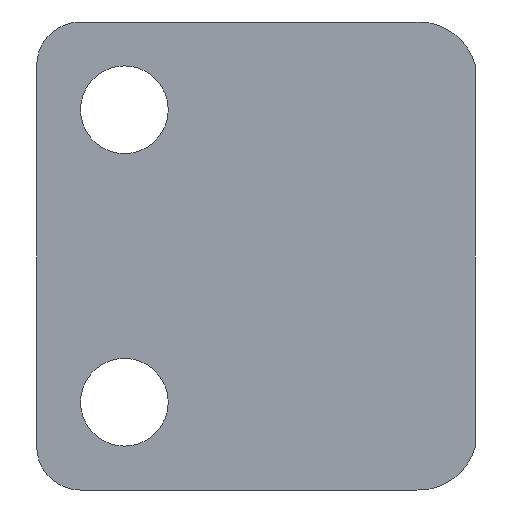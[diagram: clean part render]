
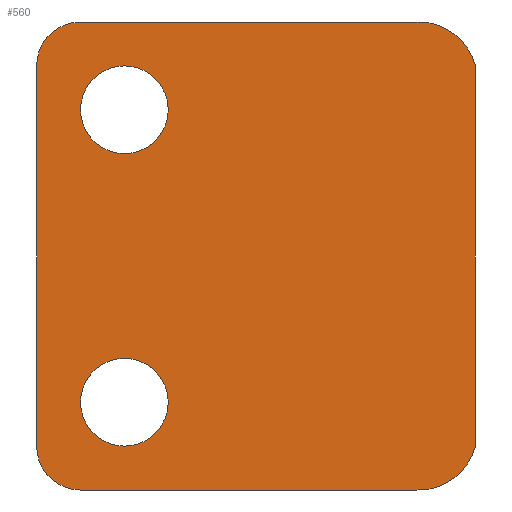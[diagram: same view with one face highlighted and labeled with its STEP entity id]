
A CAD part, front view. The second image highlights one B-rep face of the part: STEP entity #560.
In plain terms, the highlighted planar face has unit normal (0, -1, 0).
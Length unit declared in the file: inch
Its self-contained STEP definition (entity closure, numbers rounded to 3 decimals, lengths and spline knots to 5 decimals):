
#332=CARTESIAN_POINT('',(4.578,5.1798,3.36048));
#333=VERTEX_POINT('',#332);
#334=CARTESIAN_POINT('',(4.7655,5.1798,3.36048));
#335=DIRECTION('',(0.0,-1.0,0.0));
#336=DIRECTION('',(0.0,0.0,-1.0));
#337=AXIS2_PLACEMENT_3D('',#334,#335,#336);
#338=CIRCLE('',#337,0.1875);
#339=EDGE_CURVE('',#333,#333,#338,.T.);
#352=CARTESIAN_POINT('',(4.953,5.1798,4.61048));
#353=VERTEX_POINT('',#352);
#354=CARTESIAN_POINT('',(4.7655,5.1798,4.61048));
#355=DIRECTION('',(0.0,-1.0,0.0));
#356=DIRECTION('',(0.0,0.0,1.0));
#357=AXIS2_PLACEMENT_3D('',#354,#355,#356);
#358=CIRCLE('',#357,0.1875);
#359=EDGE_CURVE('',#353,#353,#358,.T.);
#372=CARTESIAN_POINT('',(6.2655,5.1798,4.79798));
#373=VERTEX_POINT('',#372);
#374=CARTESIAN_POINT('',(6.2655,5.1798,3.17298));
#375=VERTEX_POINT('',#374);
#376=CARTESIAN_POINT('',(6.2655,5.1798,4.79798));
#377=DIRECTION('',(0.0,0.0,-1.0));
#378=VECTOR('',#377,1.625);
#379=LINE('',#376,#378);
#380=EDGE_CURVE('',#373,#375,#379,.T.);
#403=CARTESIAN_POINT('',(6.016,5.1798,2.98548));
#404=VERTEX_POINT('',#403);
#405=CARTESIAN_POINT('',(6.02405,5.1798,3.23452));
#406=DIRECTION('',(0.0,1.0,0.0));
#407=DIRECTION('',(0.601,0.0,-0.799));
#408=AXIS2_PLACEMENT_3D('',#405,#406,#407);
#409=CIRCLE('',#408,0.24917);
#410=EDGE_CURVE('',#375,#404,#409,.T.);
#428=CARTESIAN_POINT('',(4.578,5.1798,2.98548));
#429=VERTEX_POINT('',#428);
#430=CARTESIAN_POINT('',(4.3905,5.1798,3.17298));
#431=VERTEX_POINT('',#430);
#432=CARTESIAN_POINT('',(4.578,5.1798,3.17298));
#433=DIRECTION('',(0.0,1.0,0.0));
#434=DIRECTION('',(-0.707,0.0,-0.707));
#435=AXIS2_PLACEMENT_3D('',#432,#433,#434);
#436=CIRCLE('',#435,0.1875);
#437=EDGE_CURVE('',#429,#431,#436,.T.);
#460=CARTESIAN_POINT('',(4.3905,5.1798,4.79798));
#461=VERTEX_POINT('',#460);
#462=CARTESIAN_POINT('',(4.3905,5.1798,3.17298));
#463=DIRECTION('',(0.0,0.0,1.0));
#464=VECTOR('',#463,1.625);
#465=LINE('',#462,#464);
#466=EDGE_CURVE('',#431,#461,#465,.T.);
#484=CARTESIAN_POINT('',(4.578,5.1798,4.98548));
#485=VERTEX_POINT('',#484);
#486=CARTESIAN_POINT('',(4.578,5.1798,4.79798));
#487=DIRECTION('',(0.0,1.0,0.0));
#488=DIRECTION('',(-0.707,0.0,0.707));
#489=AXIS2_PLACEMENT_3D('',#486,#487,#488);
#490=CIRCLE('',#489,0.1875);
#491=EDGE_CURVE('',#461,#485,#490,.T.);
#509=CARTESIAN_POINT('',(6.016,5.1798,4.98548));
#510=VERTEX_POINT('',#509);
#511=CARTESIAN_POINT('',(6.02405,5.1798,4.73644));
#512=DIRECTION('',(0.0,1.0,0.0));
#513=DIRECTION('',(0.601,0.0,0.799));
#514=AXIS2_PLACEMENT_3D('',#511,#512,#513);
#515=CIRCLE('',#514,0.24917);
#516=EDGE_CURVE('',#510,#373,#515,.T.);
#529=CARTESIAN_POINT('',(5.32282,5.1798,3.98548));
#530=DIRECTION('',(0.0,-1.0,0.0));
#531=DIRECTION('',(0.0,0.0,-1.0));
#532=AXIS2_PLACEMENT_3D('',#529,#530,#531);
#533=PLANE('',#532);
#534=ORIENTED_EDGE('',*,*,#380,.F.);
#535=ORIENTED_EDGE('',*,*,#516,.F.);
#536=CARTESIAN_POINT('',(4.578,5.1798,4.98548));
#537=DIRECTION('',(1.0,0.0,0.0));
#538=VECTOR('',#537,1.438);
#539=LINE('',#536,#538);
#540=EDGE_CURVE('',#485,#510,#539,.T.);
#541=ORIENTED_EDGE('',*,*,#540,.F.);
#542=ORIENTED_EDGE('',*,*,#491,.F.);
#543=ORIENTED_EDGE('',*,*,#466,.F.);
#544=ORIENTED_EDGE('',*,*,#437,.F.);
#545=CARTESIAN_POINT('',(6.016,5.1798,2.98548));
#546=DIRECTION('',(-1.0,0.0,0.0));
#547=VECTOR('',#546,1.438);
#548=LINE('',#545,#547);
#549=EDGE_CURVE('',#404,#429,#548,.T.);
#550=ORIENTED_EDGE('',*,*,#549,.F.);
#551=ORIENTED_EDGE('',*,*,#410,.F.);
#552=EDGE_LOOP('',(#534,#535,#541,#542,#543,#544,#550,#551));
#553=FACE_OUTER_BOUND('',#552,.T.);
#554=ORIENTED_EDGE('',*,*,#359,.F.);
#555=EDGE_LOOP('',(#554));
#556=FACE_BOUND('',#555,.T.);
#557=ORIENTED_EDGE('',*,*,#339,.F.);
#558=EDGE_LOOP('',(#557));
#559=FACE_BOUND('',#558,.T.);
#560=ADVANCED_FACE('',(#553,#556,#559),#533,.T.);
